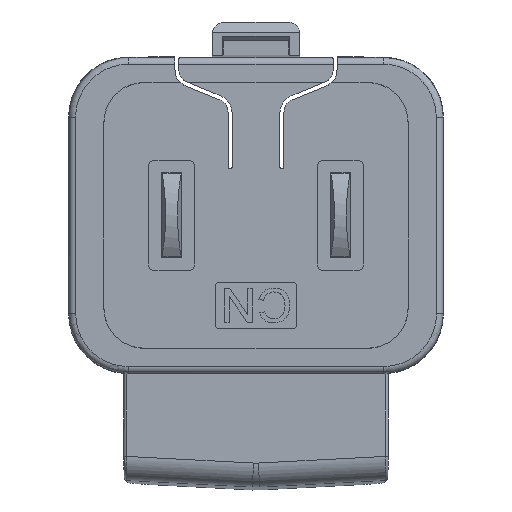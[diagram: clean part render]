
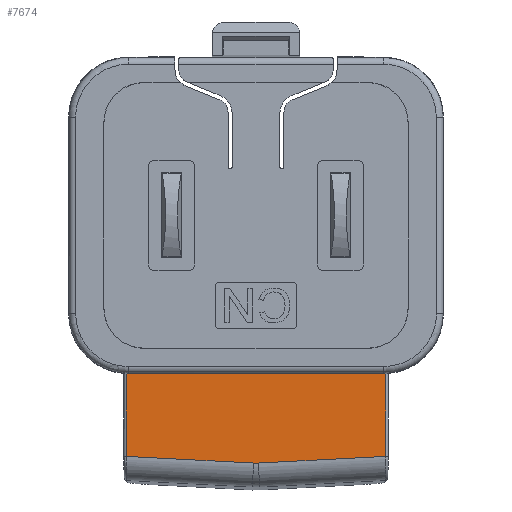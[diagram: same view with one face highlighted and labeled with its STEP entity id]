
A CAD part, top view. The second image highlights one B-rep face of the part: STEP entity #7674.
In plain terms, the highlighted planar face has unit normal (0, 0, 1).
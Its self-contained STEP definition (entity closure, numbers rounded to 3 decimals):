
#180=ELLIPSE('',#8097,22.125,22.124);
#181=ELLIPSE('',#8098,22.125,22.124);
#448=FACE_OUTER_BOUND('',#859,.T.);
#859=EDGE_LOOP('',(#5152,#5153,#5154,#5155,#5156,#5157,#5158,#5159));
#1341=LINE('',#10928,#2250);
#1342=LINE('',#10932,#2251);
#1343=LINE('',#10934,#2252);
#1344=LINE('',#10936,#2253);
#1345=LINE('',#10938,#2254);
#1346=LINE('',#10940,#2255);
#2250=VECTOR('',#8802,19.177);
#2251=VECTOR('',#8805,6.222);
#2252=VECTOR('',#8806,9.553);
#2253=VECTOR('',#8807,0.406);
#2254=VECTOR('',#8808,9.553);
#2255=VECTOR('',#8809,6.222);
#3150=VERTEX_POINT('',#10926);
#3151=VERTEX_POINT('',#10927);
#3152=VERTEX_POINT('',#10929);
#3153=VERTEX_POINT('',#10931);
#3154=VERTEX_POINT('',#10933);
#3155=VERTEX_POINT('',#10935);
#3156=VERTEX_POINT('',#10937);
#3157=VERTEX_POINT('',#10939);
#3936=EDGE_CURVE('',#3150,#3151,#1341,.T.);
#3937=EDGE_CURVE('',#3152,#3151,#180,.T.);
#3938=EDGE_CURVE('',#3152,#3153,#1342,.T.);
#3939=EDGE_CURVE('',#3154,#3153,#1343,.T.);
#3940=EDGE_CURVE('',#3154,#3155,#1344,.T.);
#3941=EDGE_CURVE('',#3156,#3155,#1345,.T.);
#3942=EDGE_CURVE('',#3156,#3157,#1346,.T.);
#3943=EDGE_CURVE('',#3150,#3157,#181,.T.);
#5152=ORIENTED_EDGE('',*,*,#3936,.T.);
#5153=ORIENTED_EDGE('',*,*,#3937,.F.);
#5154=ORIENTED_EDGE('',*,*,#3938,.T.);
#5155=ORIENTED_EDGE('',*,*,#3939,.F.);
#5156=ORIENTED_EDGE('',*,*,#3940,.T.);
#5157=ORIENTED_EDGE('',*,*,#3941,.F.);
#5158=ORIENTED_EDGE('',*,*,#3942,.T.);
#5159=ORIENTED_EDGE('',*,*,#3943,.F.);
#7380=PLANE('',#8096);
#7674=ADVANCED_FACE('',(#448),#7380,.T.);
#8096=AXIS2_PLACEMENT_3D('',#10925,#8800,#8801);
#8097=AXIS2_PLACEMENT_3D('',#10930,#8803,#8804);
#8098=AXIS2_PLACEMENT_3D('',#10941,#8810,#8811);
#8800=DIRECTION('center_axis',(0.,0.,1.));
#8801=DIRECTION('ref_axis',(1.,0.,0.));
#8802=DIRECTION('',(-1.,0.,0.));
#8803=DIRECTION('center_axis',(0.,0.,1.));
#8804=DIRECTION('ref_axis',(-0.045,-0.999,0.));
#8805=DIRECTION('',(0.,-1.,0.));
#8806=DIRECTION('',(-0.999,0.052,0.));
#8807=DIRECTION('',(1.,0.,0.));
#8808=DIRECTION('',(-0.999,-0.052,0.));
#8809=DIRECTION('',(0.,1.,0.));
#8810=DIRECTION('center_axis',(0.,0.,1.));
#8811=DIRECTION('ref_axis',(-0.045,0.999,0.));
#10925=CARTESIAN_POINT('Origin',(24.328,20.605,-1.354));
#10926=CARTESIAN_POINT('',(9.588,-39.305,-1.354));
#10927=CARTESIAN_POINT('',(-9.588,-39.305,-1.354));
#10928=CARTESIAN_POINT('',(17.317,-39.305,-1.354));
#10929=CARTESIAN_POINT('',(-9.743,-39.296,-1.354));
#10930=CARTESIAN_POINT('Origin',(-8.379,-17.214,-1.354));
#10931=CARTESIAN_POINT('',(-9.743,-45.518,-1.354));
#10932=CARTESIAN_POINT('',(-9.743,-39.296,-1.354));
#10933=CARTESIAN_POINT('',(-0.203,-46.019,-1.354));
#10934=CARTESIAN_POINT('',(20.777,-47.119,-1.354));
#10935=CARTESIAN_POINT('',(0.203,-46.019,-1.354));
#10936=CARTESIAN_POINT('',(24.328,-46.019,-1.354));
#10937=CARTESIAN_POINT('',(9.743,-45.518,-1.354));
#10938=CARTESIAN_POINT('',(-20.777,-47.119,-1.354));
#10939=CARTESIAN_POINT('',(9.743,-39.296,-1.354));
#10940=CARTESIAN_POINT('',(9.743,-45.518,-1.354));
#10941=CARTESIAN_POINT('Origin',(8.379,-17.214,-1.354));
